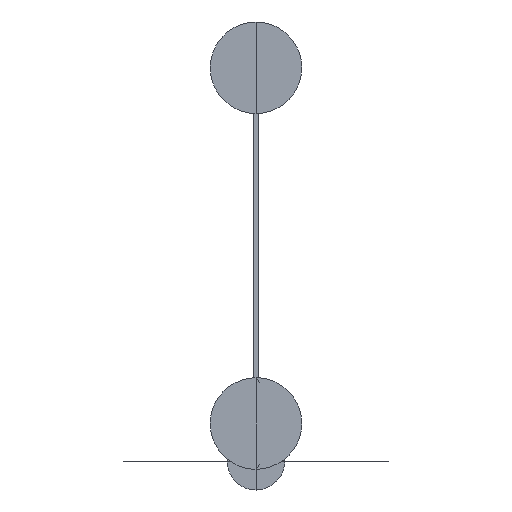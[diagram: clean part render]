
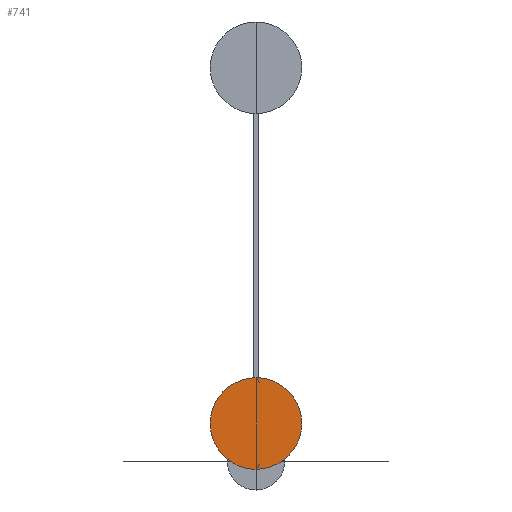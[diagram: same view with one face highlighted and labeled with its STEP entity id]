
A CAD part, top view. The second image highlights one B-rep face of the part: STEP entity #741.
In plain terms, the highlighted planar face has unit normal (0, 0, 1).
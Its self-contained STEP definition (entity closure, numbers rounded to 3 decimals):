
#113=PLANE($,#4138);
#741=ADVANCED_FACE($,(#905),#113,.T.);
#905=FACE_OUTER_BOUND($,#1084,.T.);
#1084=EDGE_LOOP($,(#1522,#1523));
#1522=ORIENTED_EDGE($,*,*,#2145,.T.);
#1523=ORIENTED_EDGE($,*,*,#2146,.T.);
#2145=EDGE_CURVE($,#2748,#2749,#3394,.T.);
#2146=EDGE_CURVE($,#2749,#2748,#3395,.T.);
#2748=VERTEX_POINT($,#6703);
#2749=VERTEX_POINT($,#6704);
#3394=(
BOUNDED_CURVE()
B_SPLINE_CURVE(2,(#6692,#6693,#6694,#6695,#6696),.UNSPECIFIED.,.F.,.F.)
B_SPLINE_CURVE_WITH_KNOTS((3,2,3),(-17.047,-12.785,-8.523),
.UNSPECIFIED.)
CURVE()
GEOMETRIC_REPRESENTATION_ITEM()
RATIONAL_B_SPLINE_CURVE((1.,0.707,1.,0.707,
1.))
REPRESENTATION_ITEM($)
);
#3395=(
BOUNDED_CURVE()
B_SPLINE_CURVE(2,(#6697,#6698,#6699,#6700,#6701),.UNSPECIFIED.,.F.,.F.)
B_SPLINE_CURVE_WITH_KNOTS((3,2,3),(-8.523,-4.262,0.),
.UNSPECIFIED.)
CURVE()
GEOMETRIC_REPRESENTATION_ITEM()
RATIONAL_B_SPLINE_CURVE((1.,0.707,1.,0.707,
1.))
REPRESENTATION_ITEM($)
);
#4138=AXIS2_PLACEMENT_3D($,#6702,#4245,$);
#4245=DIRECTION($,(0.,0.,1.));
#6692=CARTESIAN_POINT($,(0.,156.035,601.608));
#6693=CARTESIAN_POINT($,(-65.819,156.035,601.608));
#6694=CARTESIAN_POINT($,(-65.819,90.217,601.608));
#6695=CARTESIAN_POINT($,(-65.819,24.398,601.608));
#6696=CARTESIAN_POINT($,(0.,24.398,601.608));
#6697=CARTESIAN_POINT($,(0.,24.398,601.608));
#6698=CARTESIAN_POINT($,(65.819,24.398,601.608));
#6699=CARTESIAN_POINT($,(65.819,90.217,601.608));
#6700=CARTESIAN_POINT($,(65.819,156.035,601.608));
#6701=CARTESIAN_POINT($,(0.,156.035,601.608));
#6702=CARTESIAN_POINT($,(-67.135,23.082,601.608));
#6703=CARTESIAN_POINT($,(0.,156.035,601.608));
#6704=CARTESIAN_POINT($,(0.,24.398,601.608));
